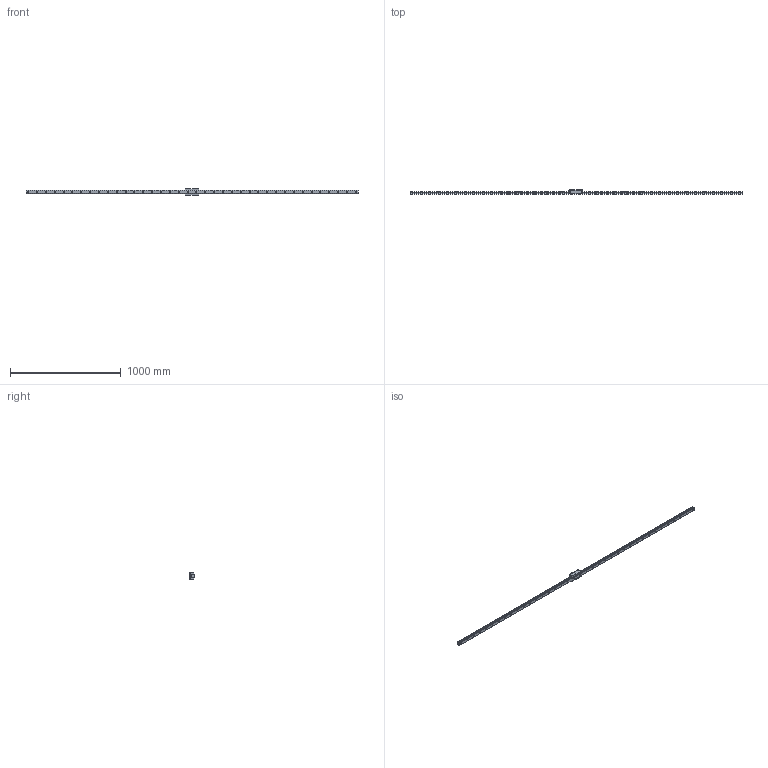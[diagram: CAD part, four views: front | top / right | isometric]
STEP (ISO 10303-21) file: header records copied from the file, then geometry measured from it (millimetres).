
FILE_DESCRIPTION(/* description */ ('STEP AP214'),/* implementation_level */ '2;1');
FILE_NAME(/* name */ 'HDR30LR1SS-3000L_G20_0_B-M6F_1437-95_0_0_01',/* time_stamp */ '2023-06-30T12:50:46+02:00',/* author */ ('License CC BY-ND 4.0'),/* organization */ ('CADENAS'),/* preprocessor_version */ 'ST-DEVELOPER v19.3',/* originating_system */ 'PARTsolutions',/* authorisation */ ' ');
FILE_SCHEMA (('AUTOMOTIVE_DESIGN {1 0 10303 214 3 1 1}'));
Length unit declared in the file: millimetre
Products named in the file (4): HDR30LR1SS-3000L_G20_0_B-M6F_1437-95_0_0_01; hsr_ftht_B-M6F_grease_nipple_joint; HDR30LRSSB-M6F Slider-1; HDR30LR1300020 Rail
Assembly tree (3 placements, depth 2):
  HDR30LR1SS-3000L_G20_0_B-M6F_1437-95_0_0_01
    hsr_ftht_B-M6F_grease_nipple_joint
    HDR30LRSSB-M6F Slider-1
    HDR30LR1300020 Rail
Bounding box: 3000 x 45 x 60 mm (x, y, z)
Volume: 2004233.1 mm3; surface area: 411144.2 mm2
Topology: 3 solids, 3 shells, 332 faces, 814 edges, 531 vertices
Faces by surface type: plane 166, cylinder 136, cone 25, sphere 3, torus 2
Full cylindrical faces by diameter (mm): 4.917 x2, 5.2 x4, 6 x1, 6.647 x6, 8 x1, 9 x38, 14 x38
Entity records: 9459 total; most frequent: CARTESIAN_POINT 1647, DIRECTION 1634, ORIENTED_EDGE 1372, EDGE_CURVE 686, AXIS2_PLACEMENT_3D 636, FACE_BOUND 573, EDGE_LOOP 565, VERTEX_POINT 525
